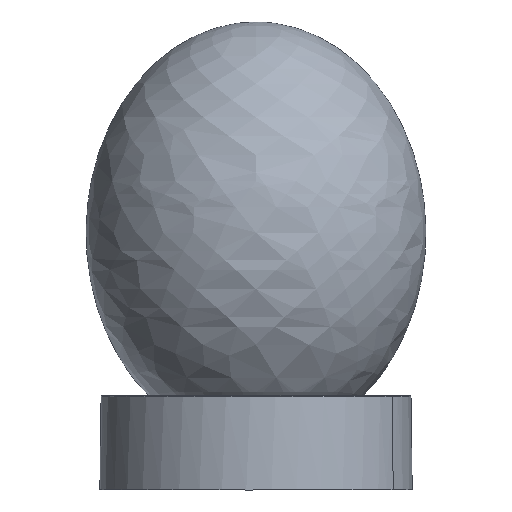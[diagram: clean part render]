
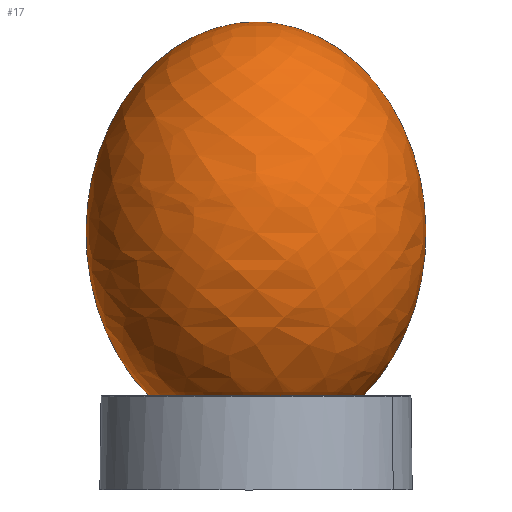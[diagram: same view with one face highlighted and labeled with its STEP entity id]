
A CAD part, left-side view. The second image highlights one B-rep face of the part: STEP entity #17.
In plain terms, the highlighted free-form (B-spline) face has degree [2, 2] with [5, 5] control points.
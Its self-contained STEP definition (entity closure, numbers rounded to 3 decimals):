
#17=ADVANCED_FACE('',(#26),#131,.T.);
#26=FACE_OUTER_BOUND('',#35,.T.);
#35=EDGE_LOOP('',(#46,#47,#48,#49));
#46=ORIENTED_EDGE('',*,*,#98,.T.);
#47=ORIENTED_EDGE('',*,*,#82,.F.);
#48=ORIENTED_EDGE('',*,*,#95,.F.);
#49=ORIENTED_EDGE('',*,*,#99,.F.);
#82=EDGE_CURVE('',#122,#120,#100,.T.);
#95=EDGE_CURVE('',#123,#122,#115,.T.);
#98=EDGE_CURVE('',#130,#120,#109,.T.);
#99=EDGE_CURVE('',#130,#123,#118,.T.);
#100=(
BOUNDED_CURVE()
B_SPLINE_CURVE(2,(#550,#551,#552,#553,#554),.UNSPECIFIED.,.F.,.F.)
B_SPLINE_CURVE_WITH_KNOTS((3,2,3),(9.764,10.898,12.469),
 .UNSPECIFIED.)
CURVE()
GEOMETRIC_REPRESENTATION_ITEM()
RATIONAL_B_SPLINE_CURVE((1.,0.839,1.,0.707,1.))
REPRESENTATION_ITEM('')
);
#109=(
BOUNDED_CURVE()
B_SPLINE_CURVE(2,(#634,#635,#636,#637,#638),.UNSPECIFIED.,.F.,.F.)
B_SPLINE_CURVE_WITH_KNOTS((3,2,3),(9.764,10.898,12.469),
 .UNSPECIFIED.)
CURVE()
GEOMETRIC_REPRESENTATION_ITEM()
RATIONAL_B_SPLINE_CURVE((1.,0.839,1.,0.707,1.))
REPRESENTATION_ITEM('')
);
#115=B_SPLINE_CURVE_WITH_KNOTS('',3,(#615,#616,#617,#618,#619,#620,#621),
 .UNSPECIFIED.,.F.,.F.,(4,3,4),(0.803,3.944,13.634),
 .UNSPECIFIED.);
#118=B_SPLINE_CURVE_WITH_KNOTS('',3,(#639,#640,#641,#642,#643,#644,#645,
#646,#647,#648,#649,#650,#651,#652,#653,#654,#655,#656,#657,#658,#659,#660,
#661,#662,#663,#664,#665,#666,#667,#668,#669),.UNSPECIFIED.,.F.,.F.,(4,
3,3,3,3,3,3,3,3,3,4),(13.657,20.576,23.318,
33.834,41.167,44.304,53.997,61.736,
63.663,74.175,81.507),.UNSPECIFIED.);
#120=VERTEX_POINT('',#508);
#122=VERTEX_POINT('',#510);
#123=VERTEX_POINT('',#511);
#130=VERTEX_POINT('',#518);
#131=(
BOUNDED_SURFACE()
B_SPLINE_SURFACE(2,2,((#169,#170,#171,#172,#173),(#174,#175,#176,#177,#178),
(#179,#180,#181,#182,#183),(#184,#185,#186,#187,#188),(#189,#190,#191,#192,
#193)),.UNSPECIFIED.,.F.,.F.,.F.)
B_SPLINE_SURFACE_WITH_KNOTS((3,2,3),(3,2,3),(0.,93.459,186.918),
(9.754,10.898,12.469),.UNSPECIFIED.)
GEOMETRIC_REPRESENTATION_ITEM()
RATIONAL_B_SPLINE_SURFACE(((0.884,0.787,1.,0.707,
1.),(0.625,0.556,0.707,0.5,0.707),
(0.884,0.787,1.,0.707,1.),(0.625,
0.556,0.707,0.5,0.707),(0.884,
0.787,1.,0.707,1.)))
REPRESENTATION_ITEM('')
SURFACE()
);
#169=CARTESIAN_POINT('',(4.479,-24.083,-18.343));
#170=CARTESIAN_POINT('',(4.479,-61.583,1.951));
#171=CARTESIAN_POINT('',(4.479,-61.583,52.687));
#172=CARTESIAN_POINT('',(4.479,-61.583,130.187));
#173=CARTESIAN_POINT('',(4.479,0.917,130.187));
#174=CARTESIAN_POINT('',(-20.521,-24.083,-18.343));
#175=CARTESIAN_POINT('',(-58.021,-61.583,1.951));
#176=CARTESIAN_POINT('',(-58.021,-61.583,52.687));
#177=CARTESIAN_POINT('',(-58.021,-61.583,130.187));
#178=CARTESIAN_POINT('',(4.479,0.917,130.187));
#179=CARTESIAN_POINT('',(-20.521,0.917,-18.343));
#180=CARTESIAN_POINT('',(-58.021,0.917,1.951));
#181=CARTESIAN_POINT('',(-58.021,0.917,52.687));
#182=CARTESIAN_POINT('',(-58.021,0.917,130.187));
#183=CARTESIAN_POINT('',(4.479,0.917,130.187));
#184=CARTESIAN_POINT('',(-20.521,25.917,-18.343));
#185=CARTESIAN_POINT('',(-58.021,63.417,1.951));
#186=CARTESIAN_POINT('',(-58.021,63.417,52.687));
#187=CARTESIAN_POINT('',(-58.021,63.417,130.187));
#188=CARTESIAN_POINT('',(4.479,0.917,130.187));
#189=CARTESIAN_POINT('',(4.479,25.917,-18.343));
#190=CARTESIAN_POINT('',(4.479,63.417,1.951));
#191=CARTESIAN_POINT('',(4.479,63.417,52.687));
#192=CARTESIAN_POINT('',(4.479,63.417,130.187));
#193=CARTESIAN_POINT('',(4.479,0.917,130.187));
#508=CARTESIAN_POINT('',(4.479,0.917,130.187));
#510=CARTESIAN_POINT('',(4.479,-24.637,-18.039));
#511=CARTESIAN_POINT('',(-7.767,-21.513,-18.038));
#518=CARTESIAN_POINT('',(4.479,26.488,-18.03));
#550=CARTESIAN_POINT('',(4.479,-24.637,-18.039));
#551=CARTESIAN_POINT('',(4.479,-61.583,2.487));
#552=CARTESIAN_POINT('',(4.479,-61.583,52.687));
#553=CARTESIAN_POINT('',(4.479,-61.583,130.187));
#554=CARTESIAN_POINT('',(4.479,0.917,130.187));
#615=CARTESIAN_POINT('',(-7.767,-21.513,-18.038));
#616=CARTESIAN_POINT('',(-6.849,-22.014,-18.038));
#617=CARTESIAN_POINT('',(-5.901,-22.459,-18.039));
#618=CARTESIAN_POINT('',(-4.928,-22.844,-18.039));
#619=CARTESIAN_POINT('',(-1.933,-24.029,-18.039));
#620=CARTESIAN_POINT('',(1.258,-24.637,-18.039));
#621=CARTESIAN_POINT('',(4.479,-24.637,-18.039));
#634=CARTESIAN_POINT('',(4.479,26.488,-18.03));
#635=CARTESIAN_POINT('',(4.479,63.417,2.502));
#636=CARTESIAN_POINT('',(4.479,63.417,52.687));
#637=CARTESIAN_POINT('',(4.479,63.417,130.187));
#638=CARTESIAN_POINT('',(4.479,0.917,130.187));
#639=CARTESIAN_POINT('',(4.479,26.488,-18.03));
#640=CARTESIAN_POINT('',(2.176,26.488,-18.03));
#641=CARTESIAN_POINT('',(-0.117,26.177,-18.03));
#642=CARTESIAN_POINT('',(-2.337,25.563,-18.03));
#643=CARTESIAN_POINT('',(-3.217,25.319,-18.03));
#644=CARTESIAN_POINT('',(-4.084,25.029,-18.03));
#645=CARTESIAN_POINT('',(-4.933,24.692,-18.031));
#646=CARTESIAN_POINT('',(-8.181,23.406,-18.031));
#647=CARTESIAN_POINT('',(-11.131,21.468,-18.031));
#648=CARTESIAN_POINT('',(-13.601,18.997,-18.031));
#649=CARTESIAN_POINT('',(-15.326,17.271,-18.032));
#650=CARTESIAN_POINT('',(-16.795,15.307,-18.032));
#651=CARTESIAN_POINT('',(-17.963,13.165,-18.032));
#652=CARTESIAN_POINT('',(-18.464,12.248,-18.033));
#653=CARTESIAN_POINT('',(-18.908,11.3,-18.033));
#654=CARTESIAN_POINT('',(-19.292,10.328,-18.033));
#655=CARTESIAN_POINT('',(-20.477,7.332,-18.033));
#656=CARTESIAN_POINT('',(-21.085,4.139,-18.034));
#657=CARTESIAN_POINT('',(-21.084,0.917,-18.034));
#658=CARTESIAN_POINT('',(-21.083,-1.657,-18.035));
#659=CARTESIAN_POINT('',(-20.694,-4.217,-18.035));
#660=CARTESIAN_POINT('',(-19.928,-6.675,-18.036));
#661=CARTESIAN_POINT('',(-19.737,-7.288,-18.036));
#662=CARTESIAN_POINT('',(-19.523,-7.894,-18.036));
#663=CARTESIAN_POINT('',(-19.287,-8.491,-18.036));
#664=CARTESIAN_POINT('',(-18.,-11.737,-18.037));
#665=CARTESIAN_POINT('',(-16.063,-14.686,-18.037));
#666=CARTESIAN_POINT('',(-13.593,-17.154,-18.038));
#667=CARTESIAN_POINT('',(-11.868,-18.879,-18.038));
#668=CARTESIAN_POINT('',(-9.906,-20.346,-18.038));
#669=CARTESIAN_POINT('',(-7.767,-21.513,-18.038));
